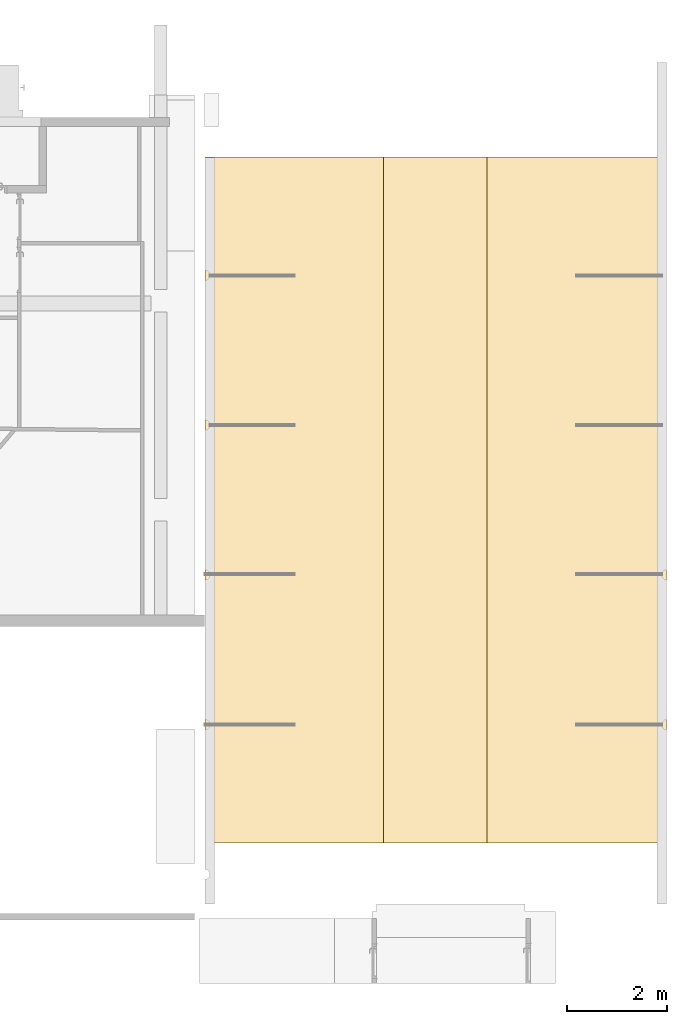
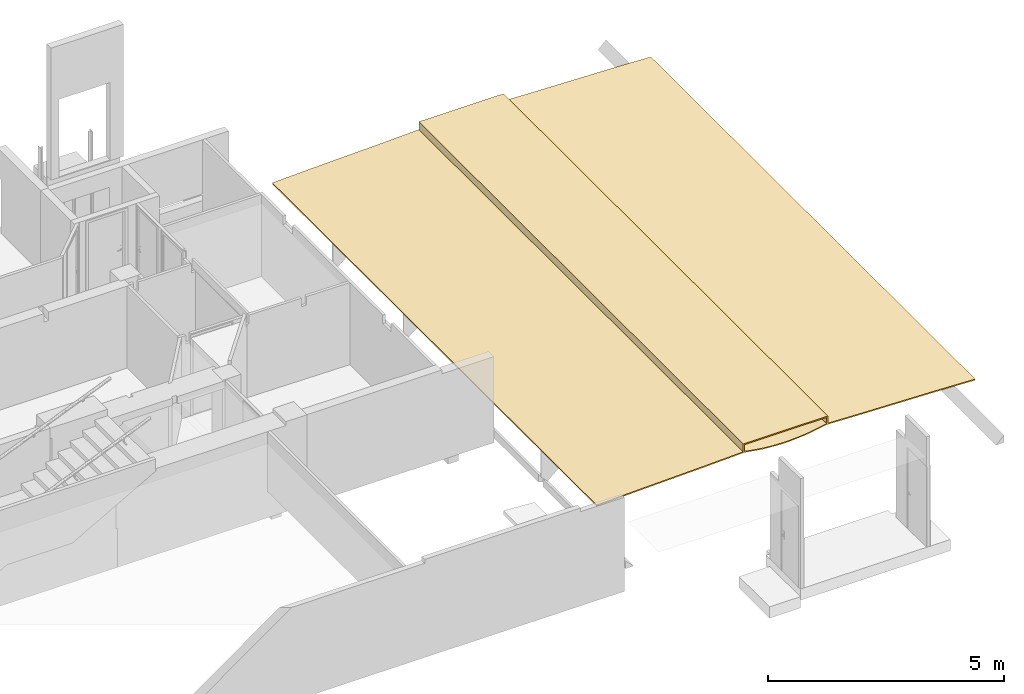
# One storey, part 27 of 32: 1 covering.
"""IFC4 building model written with IfcOpenShell, lengths in metres."""

from ifc_helpers import new_model, entity, si_unit, converted_unit, derived_unit, direction, frame, origin, place, context, subcontext, project, spatial, polygons, material, type_object, element, save


model = new_model("IFC4")

# Units and contexts
model_context = context("Model", 3, precision=1e-05, world=origin(), true_north=direction((6.12303176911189e-17, 1.0)))
body_context = subcontext(model_context, "Body", "Model", "MODEL_VIEW")
ifc_project = project(units=[si_unit("LENGTHUNIT", "METRE"), si_unit("AREAUNIT", "SQUARE_METRE"), si_unit("VOLUMEUNIT", "CUBIC_METRE"), converted_unit("PLANEANGLEUNIT", "DEGREE", entity("IfcRatioMeasure", 0.0174532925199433), si_unit("PLANEANGLEUNIT", "RADIAN"), dimensions=[0, 0, 0, 0, 0, 0, 0]), si_unit("MASSUNIT", "GRAM", prefix="KILO"), derived_unit("MASSDENSITYUNIT", [(si_unit("MASSUNIT", "GRAM", prefix="KILO"), 1), (si_unit("LENGTHUNIT", "METRE"), -3)]), derived_unit("MOMENTOFINERTIAUNIT", [(si_unit("LENGTHUNIT", "METRE"), 4)]), si_unit("TIMEUNIT", "SECOND"), si_unit("FREQUENCYUNIT", "HERTZ"), si_unit("THERMODYNAMICTEMPERATUREUNIT", "DEGREE_CELSIUS"), derived_unit("THERMALTRANSMITTANCEUNIT", [(si_unit("MASSUNIT", "GRAM", prefix="KILO"), 1), (si_unit("THERMODYNAMICTEMPERATUREUNIT", "KELVIN"), -1), (si_unit("TIMEUNIT", "SECOND"), -3)]), derived_unit("VOLUMETRICFLOWRATEUNIT", [(si_unit("LENGTHUNIT", "METRE"), 3), (si_unit("TIMEUNIT", "SECOND"), -1)]), si_unit("ELECTRICCURRENTUNIT", "AMPERE"), si_unit("ELECTRICVOLTAGEUNIT", "VOLT"), si_unit("POWERUNIT", "WATT"), si_unit("FORCEUNIT", "NEWTON", prefix="KILO"), si_unit("ILLUMINANCEUNIT", "LUX"), si_unit("LUMINOUSFLUXUNIT", "LUMEN"), si_unit("LUMINOUSINTENSITYUNIT", "CANDELA"), derived_unit("USERDEFINED", [(si_unit("MASSUNIT", "GRAM", prefix="KILO"), -1), (si_unit("LENGTHUNIT", "METRE"), -2), (si_unit("TIMEUNIT", "SECOND"), 3), (si_unit("LUMINOUSFLUXUNIT", "LUMEN"), 1)]), derived_unit("LINEARVELOCITYUNIT", [(si_unit("LENGTHUNIT", "METRE"), 1), (si_unit("TIMEUNIT", "SECOND"), -1)]), si_unit("PRESSUREUNIT", "PASCAL"), derived_unit("USERDEFINED", [(si_unit("LENGTHUNIT", "METRE"), -2), (si_unit("MASSUNIT", "GRAM", prefix="KILO"), 1), (si_unit("TIMEUNIT", "SECOND"), -2)]), derived_unit("LINEARFORCEUNIT", [(si_unit("MASSUNIT", "GRAM", prefix="KILO"), 1), (si_unit("LENGTHUNIT", "METRE"), 1), (si_unit("TIMEUNIT", "SECOND"), -2), (si_unit("LENGTHUNIT", "METRE"), -1)]), derived_unit("PLANARFORCEUNIT", [(si_unit("MASSUNIT", "GRAM", prefix="KILO"), 1), (si_unit("LENGTHUNIT", "METRE"), 1), (si_unit("TIMEUNIT", "SECOND"), -2), (si_unit("LENGTHUNIT", "METRE"), -2)])], contexts=[model_context])

# Site, building, storey
site_placement = place(None, origin())
site = spatial("IfcSite", under=ifc_project, at=site_placement, Name="Default", CompositionType="ELEMENT")
building_placement = place(site_placement, origin())
building = spatial("IfcBuilding", under=site, at=building_placement, Name="HOTEL CONSULAIRE BOULOGNE SUR MER", CompositionType="ELEMENT")
storey_placement = place(building_placement, frame((0.0, 0.0, -2.70343668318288)))
storey = spatial("IfcBuildingStorey", under=building, at=storey_placement, Name="SS1", CompositionType="ELEMENT", Elevation=-2.70343668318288)

# Covering
ifc_material = material(Name="Acrylique, transparent", Category="Plastique")
covering_type = type_object("IfcCoveringType", Name="Plafonds 1:Plafonds 1", PredefinedType="NOTDEFINED")
covering_placement = place(storey_placement, frame((12.3647443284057, -26.503574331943, 1.18830366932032)))
element("IfcCovering", 1, at=covering_placement, inside=storey, type_object=covering_type, material=ifc_material, Name="Plafonds 1:Plafonds 1", ObjectType="Plafonds 1:Plafonds 1", PredefinedType="NOTDEFINED", context=body_context, shape_type="Tessellation", body=[
    polygons([(5.62232445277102, 8.66293703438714e-15, 0.140696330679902), (5.62232445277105, 8.66293703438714e-15, 0.171481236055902), (5.40190859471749, 8.66293703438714e-15, 0.126205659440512), (5.17954269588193, 8.66293703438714e-15, 0.0917609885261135), (4.95575864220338, 1.29944055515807e-14, 0.0682296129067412), (4.73109171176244, 1.29944055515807e-14, 0.055667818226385), (4.50607929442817, 1.29944055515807e-14, 0.054105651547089), (4.28125960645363, 1.29944055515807e-14, 0.0635468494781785), (4.05717040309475, 1.29944055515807e-14, 0.0839688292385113), (3.83434769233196, 1.29944055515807e-14, 0.115322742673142), (3.61332445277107, 1.73258740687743e-14, 0.157533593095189), (3.61332445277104, 1.73258740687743e-14, 0.126843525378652), (4.0572045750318, 1.29944055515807e-14, 0.0537655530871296), (4.50608091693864, 1.29944055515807e-14, 0.0241010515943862), (4.73106970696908, 1.29944055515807e-14, 0.0256524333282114), (5.17949429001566, 8.66293703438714e-15, 0.0615041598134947), (5.62232445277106, 13.7361106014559, 0.140696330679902), (5.17949429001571, 13.7361106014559, 0.0615041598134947), (4.73106970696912, 13.7361106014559, 0.0256524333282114), (4.50608091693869, 13.7361106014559, 0.0241010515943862), (4.05720457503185, 13.7361106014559, 0.0537655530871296), (3.61332445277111, 13.7361106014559, 0.126843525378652), (3.61332445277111, 13.7361106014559, 0.157533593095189), (3.83434769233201, 13.7361106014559, 0.115322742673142), (4.0571704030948, 13.7361106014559, 0.0839688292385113), (4.28125960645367, 13.7361106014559, 0.0635468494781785), (4.50607929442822, 13.7361106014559, 0.054105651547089), (4.73109171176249, 13.7361106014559, 0.055667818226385), (4.95575864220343, 13.7361106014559, 0.0682296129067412), (5.17954269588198, 13.7361106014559, 0.0917609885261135), (5.40190859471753, 13.7361106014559, 0.126205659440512), (5.6223244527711, 13.7361106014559, 0.171481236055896), (5.62232445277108, 9.47367281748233, 0.171481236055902), (3.61332445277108, 4.26243855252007, 0.157533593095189), (4.61859505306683, 6.8680553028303, 0.05351093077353), (5.62232445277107, 4.73684080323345, 0.171481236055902), (3.6133244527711, 8.999274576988, 0.157533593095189), (4.84350198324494, 10.1620878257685, 0.0605750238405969), (4.39361172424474, 3.57402277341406, 0.0574516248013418), (5.17242186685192, 6.98316052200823, 0.0908413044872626), (5.06779454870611, 3.4859098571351, 0.0786270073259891), (4.06430331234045, 6.75295006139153, 0.0831481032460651), (4.16909013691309, 10.2502007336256, 0.0723876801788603), (5.25194166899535, 10.7925485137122, 0.101754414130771), (3.98463965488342, 2.9435620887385, 0.0929560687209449), (4.61858473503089, 6.868055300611, 0.023510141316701), (4.61858473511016, 3.38737256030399, 0.0235101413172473), (4.61858473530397, 10.3487380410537, 0.0235101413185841), (3.61332445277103, 6.86798021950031, 0.126843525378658), (5.62232445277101, 6.86787429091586, 0.140696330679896), (3.61332445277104, 8.98376921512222, 0.126843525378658), (4.11312746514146, 7.92595578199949, 0.0476736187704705), (3.61332445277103, 4.7521912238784, 0.126843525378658), (5.62232445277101, 4.75223160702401, 0.140696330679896), (5.12366072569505, 5.81015481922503, 0.0546416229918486), (5.62232445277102, 8.98351697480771, 0.140696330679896), (3.95656132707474, 10.7675194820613, 0.0664664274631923), (5.27995282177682, 2.96859111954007, 0.0755917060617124), (4.11802712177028, 4.25480451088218, 0.0471726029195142), (5.11876844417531, 9.48130609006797, 0.0540730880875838)], [[[15, 16, 1, 2, 3, 4, 5, 6, 7, 8, 9, 10, 11, 12, 13, 14]], [[32, 17, 18, 19, 20, 21, 22, 23, 24, 25, 26, 27, 28, 29, 30, 31]], [[2, 1, 54, 50, 56, 17, 32, 33, 36]], [[4, 3, 41]], [[35, 38, 43]], [[4, 41, 5]], [[25, 24, 43]], [[39, 7, 6]], [[41, 39, 6]], [[39, 8, 7]], [[28, 38, 29]], [[37, 34, 42]], [[45, 8, 39]], [[32, 44, 33]], [[31, 44, 32]], [[6, 5, 41]], [[36, 41, 3]], [[29, 38, 44]], [[44, 38, 40]], [[42, 35, 43]], [[9, 8, 45]], [[40, 35, 41]], [[35, 39, 41]], [[38, 35, 40]], [[39, 35, 42]], [[43, 26, 25]], [[11, 45, 34]], [[36, 33, 40]], [[11, 10, 45]], [[45, 39, 42]], [[28, 27, 38]], [[23, 37, 24]], [[30, 29, 44]], [[42, 43, 37]], [[27, 26, 43]], [[38, 27, 43]], [[37, 43, 24]], [[30, 44, 31]], [[36, 3, 2]], [[33, 44, 40]], [[40, 41, 36]], [[9, 45, 10]], [[34, 45, 42]], [[12, 11, 34, 37, 23, 22, 51, 49, 53]], [[58, 1, 16]], [[59, 46, 47]], [[52, 51, 57]], [[48, 57, 20]], [[52, 59, 49]], [[58, 47, 55]], [[52, 48, 46]], [[19, 48, 20]], [[47, 15, 14]], [[49, 59, 12, 53]], [[46, 55, 47]], [[13, 12, 59]], [[57, 22, 21]], [[22, 57, 51]], [[54, 55, 50]], [[58, 15, 47]], [[57, 48, 52]], [[59, 14, 13]], [[51, 52, 49]], [[60, 50, 55]], [[18, 17, 60]], [[60, 19, 18]], [[55, 54, 58]], [[60, 46, 48]], [[50, 60, 17, 56]], [[57, 21, 20]], [[1, 58, 54]], [[58, 16, 15]], [[46, 59, 52]], [[59, 47, 14]], [[46, 60, 55]], [[60, 48, 19]]], closed=True),
    polygons([(0.0015952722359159, 3.0320279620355e-14, 0.0015952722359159), (0.900179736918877, 2.59888111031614e-14, 0.0365512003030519), (1.79902536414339, 2.59888111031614e-14, 0.0639828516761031), (2.70630550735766, 2.16573425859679e-14, 0.091643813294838), (3.61332445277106, 1.73258740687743e-14, 0.126843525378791), (3.61332445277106, 1.73258740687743e-14, 0.328447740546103), (5.62232445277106, 8.66293703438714e-15, 0.328447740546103), (5.6223244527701, 8.66293703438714e-15, 0.14069633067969), (6.53005570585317, 8.66293703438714e-15, 0.108862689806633), (7.43796098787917, 4.33146851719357e-15, 0.0824542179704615), (8.34677152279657, 0.0, 0.0548874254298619), (9.25531614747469, 0.0, 0.0196286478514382), (9.2553161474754, 0.0, 0.0496564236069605), (8.34716266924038, 0.0, 0.0848918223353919), (7.43874363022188, 4.33146851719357e-15, 0.112444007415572), (6.54545003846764, 8.66293703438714e-15, 0.138384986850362), (5.65232445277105, 8.66293703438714e-15, 0.169578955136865), (5.65232445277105, 8.66293703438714e-15, 0.358447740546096), (3.58332445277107, 1.73258740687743e-14, 0.358447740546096), (3.58332445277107, 1.73258740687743e-14, 0.155585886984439), (2.69090608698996, 2.16573425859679e-14, 0.121129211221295), (1.79823575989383, 2.59888111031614e-14, 0.0939724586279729), (0.899785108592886, 2.59888111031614e-14, 0.0665555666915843), (0.00159527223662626, 3.0320279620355e-14, 0.0316231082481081), (0.00159527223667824, 13.7361106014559, 0.00159527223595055), (0.00159527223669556, 13.7361106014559, 0.0316231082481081), (0.89978510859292, 13.7361106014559, 0.0665555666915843), (1.79823575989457, 13.7361106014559, 0.0939724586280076), (2.69090608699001, 13.7361106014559, 0.121129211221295), (3.58332445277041, 13.7361106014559, 0.155585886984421), (3.58332445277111, 13.7361106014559, 0.358447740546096), (5.6523244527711, 13.7361106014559, 0.358447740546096), (5.65232445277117, 13.7361106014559, 0.169578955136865), (6.54545003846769, 13.7361106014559, 0.138384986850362), (7.43874363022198, 13.7361106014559, 0.11244400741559), (8.34716266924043, 13.7361106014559, 0.0848918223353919), (9.25531614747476, 13.7361106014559, 0.0496564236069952), (9.25531614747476, 13.7361106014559, 0.0196286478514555), (8.34677152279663, 13.7361106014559, 0.0548874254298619), (7.43796098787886, 13.7361106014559, 0.0824542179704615), (6.53005570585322, 13.7361106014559, 0.108862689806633), (5.62232445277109, 13.7361106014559, 0.140696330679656), (5.62232445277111, 13.7361106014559, 0.328447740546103), (3.61332445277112, 13.7361106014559, 0.328447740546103), (3.61332445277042, 13.7361106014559, 0.126843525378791), (2.70630550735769, 13.7361106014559, 0.091643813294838), (1.79902536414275, 13.7361106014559, 0.0639828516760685), (0.900179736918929, 13.7361106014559, 0.0365512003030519), (0.00159527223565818, 5.72178644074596, 0.00159527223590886), (1.79902536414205, 8.01432416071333, 0.0639828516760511), (0.891178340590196, 7.22579649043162, 0.0362383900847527), (1.79902536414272, 5.76993194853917, 0.0639828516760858), (3.61332445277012, 7.96617865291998, 0.126843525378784), (2.71369455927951, 6.55864272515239, 0.0919000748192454), (5.62232445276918, 6.80633570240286, 0.140696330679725), (7.43796098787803, 6.92977489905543, 0.0824542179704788), (6.5305829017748, 6.47505576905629, 0.108845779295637), (7.43796098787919, 5.72178644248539, 0.0824542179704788), (9.25531614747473, 8.01432415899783, 0.0196286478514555), (8.33952167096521, 7.15937561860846, 0.0551378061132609), (9.25531614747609, 5.72258543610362, 0.0496564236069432), (7.43874363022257, 8.01352516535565, 0.112444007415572), (8.33984611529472, 6.57397645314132, 0.085144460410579), (7.43874363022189, 6.80566394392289, 0.112444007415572), (5.65232445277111, 6.93044665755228, 0.169578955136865), (6.54612550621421, 7.35814434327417, 0.138363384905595), (3.58332445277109, 5.76913951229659, 0.155585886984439), (1.79823575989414, 7.96697108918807, 0.0939724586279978), (2.7007752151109, 7.27436923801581, 0.121470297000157), (1.79823575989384, 5.72258543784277, 0.0939724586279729), (0.00159527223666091, 8.01352516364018, 0.0316231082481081), (0.890716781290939, 6.50756127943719, 0.0662404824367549)], [[[19, 20, 21, 22, 23, 24, 1, 2, 3, 4, 5, 6, 7, 8, 9, 10, 11, 12, 13, 14, 15, 16, 17, 18]], [[25, 26, 27, 28, 29, 30, 31, 32, 33, 34, 35, 36, 37, 38, 39, 40, 41, 42, 43, 44, 45, 46, 47, 48]], [[51, 50, 52, 3]], [[48, 51, 25]], [[2, 51, 3]], [[2, 1, 49]], [[49, 25, 51]], [[51, 48, 50]], [[49, 51, 2]], [[48, 47, 50]], [[54, 47, 46]], [[5, 4, 54]], [[53, 54, 46]], [[54, 4, 52]], [[5, 54, 53]], [[46, 45, 53]], [[54, 52, 50, 47]], [[4, 3, 52]], [[6, 5, 53, 45, 44]], [[13, 12, 59, 38, 37, 61]], [[18, 17, 65, 33, 32]], [[7, 6, 44, 43]], [[7, 43, 42, 55, 8]], [[19, 31, 30, 67, 20]], [[1, 24, 71, 26, 25, 49]], [[41, 55, 42]], [[9, 8, 57]], [[10, 9, 57]], [[41, 40, 56]], [[56, 58, 10, 57, 41]], [[41, 57, 8, 55]], [[59, 12, 60]], [[39, 60, 40]], [[11, 60, 12]], [[11, 10, 58]], [[60, 58, 56, 40]], [[60, 39, 59]], [[58, 60, 11]], [[39, 38, 59]], [[63, 37, 36]], [[15, 14, 63]], [[62, 63, 36]], [[63, 14, 61]], [[63, 62, 64, 15]], [[36, 35, 62]], [[63, 61, 37]], [[14, 13, 61]], [[17, 16, 65]], [[66, 34, 33]], [[34, 66, 35]], [[16, 15, 64]], [[66, 33, 65, 16]], [[66, 16, 64, 62, 35]], [[19, 18, 32, 31]], [[69, 68, 70, 22]], [[29, 69, 30]], [[21, 69, 22]], [[21, 20, 67]], [[67, 30, 69]], [[69, 29, 68]], [[67, 69, 21]], [[29, 28, 68]], [[72, 28, 27]], [[24, 23, 72]], [[71, 72, 27]], [[72, 23, 70]], [[24, 72, 71]], [[27, 26, 71]], [[72, 70, 68, 28]], [[23, 22, 70]]], closed=True),
])

save(model, "model.ifc")
